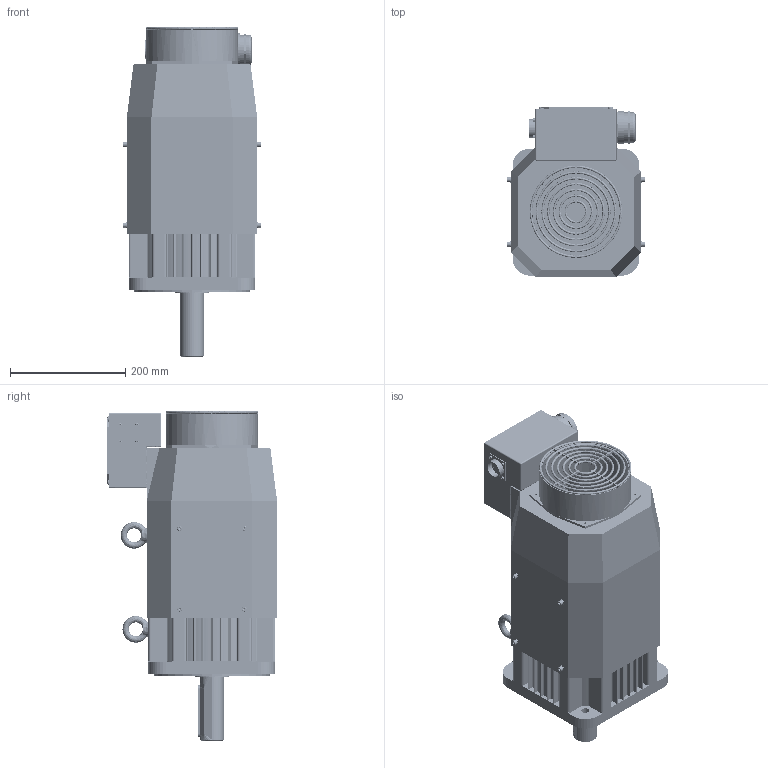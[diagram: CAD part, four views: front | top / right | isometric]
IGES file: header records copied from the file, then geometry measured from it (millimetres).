
Start section: SolidWorks IGES file using analytic representation for surfaces
Global section: file name: E:\00-工作任务\16-外形图\EMB\模型图\EMB-1AD\简易模型EMB-1AD\EMB-1AD.IGS,15HSolidWorks; native system: 2018; preprocessor: SolidWorks 2018; author: shenjianhong; date: 200417.143120; units: millimetre
Bounding box: 240.6 x 295 x 571 mm (x, y, z)
Surface area: 1542822.1 mm2 (no closed solid volume)
Topology: 0 solids, 0 shells, 1875 faces, 27179 edges, 27075 vertices
Faces by surface type: bspline 979, revolution 896
